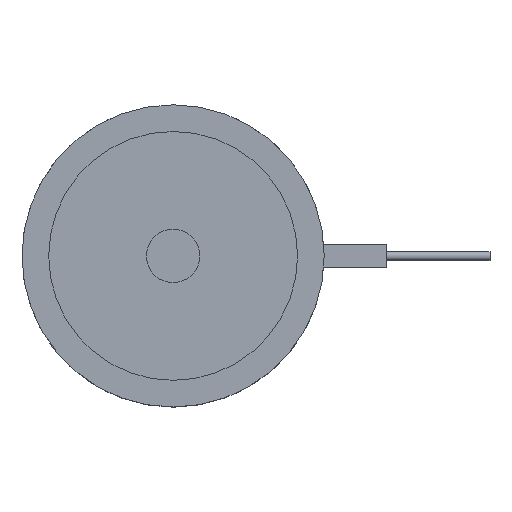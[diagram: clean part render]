
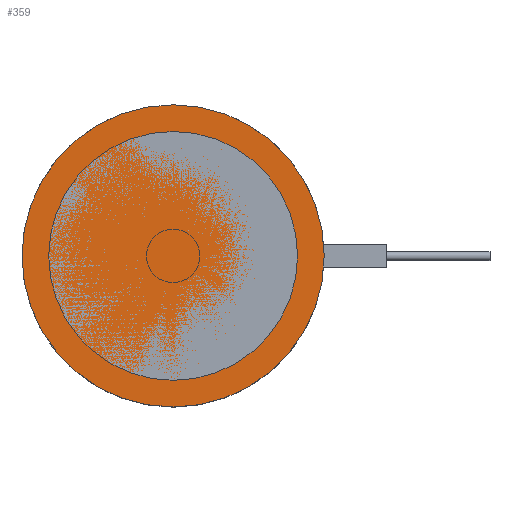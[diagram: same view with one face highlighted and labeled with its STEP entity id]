
A CAD part, top view. The second image highlights one B-rep face of the part: STEP entity #359.
In plain terms, the highlighted planar face has unit normal (0, 0, 1).
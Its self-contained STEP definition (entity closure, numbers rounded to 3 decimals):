
#230=PLANE('',#1147);
#281=FACE_OUTER_BOUND('',#551,.T.);
#359=ADVANCED_FACE('',(#281),#230,.F.);
#551=EDGE_LOOP('',(#761));
#761=ORIENTED_EDGE('',*,*,#956,.F.);
#850=VERTEX_POINT('',#1805);
#956=EDGE_CURVE('',#850,#850,#1017,.T.);
#1017=CIRCLE('',#1146,17.);
#1146=AXIS2_PLACEMENT_3D('',#1804,#1443,#1444);
#1147=AXIS2_PLACEMENT_3D('',#1806,#1445,#1446);
#1443=DIRECTION('',(0.,0.,-1.));
#1444=DIRECTION('',(-1.,0.,0.));
#1445=DIRECTION('',(0.,0.,-1.));
#1446=DIRECTION('',(-1.,0.,0.));
#1804=CARTESIAN_POINT('',(0.,0.,0.));
#1805=CARTESIAN_POINT('',(-17.,0.,0.));
#1806=CARTESIAN_POINT('',(0.,0.,0.));
